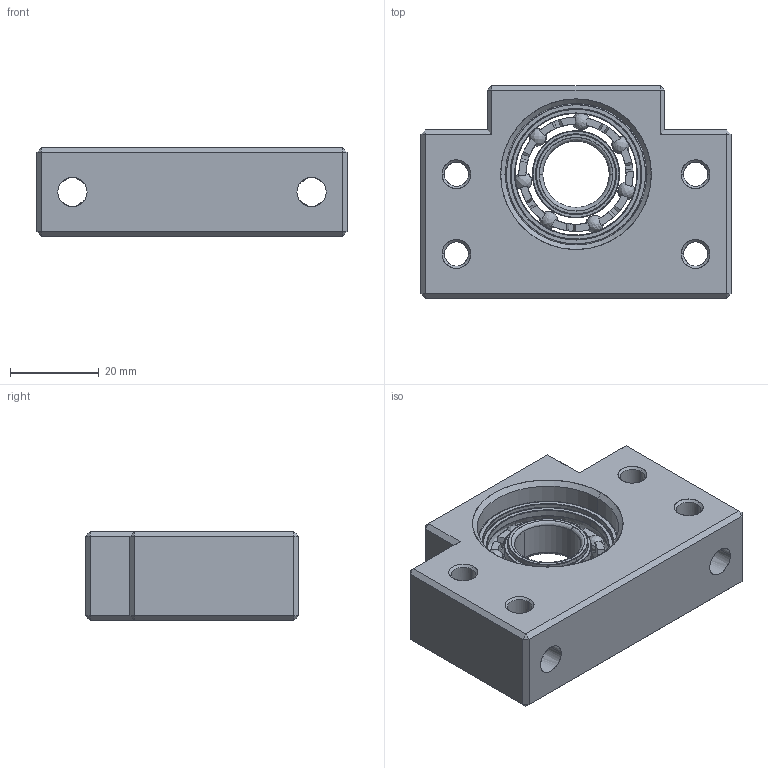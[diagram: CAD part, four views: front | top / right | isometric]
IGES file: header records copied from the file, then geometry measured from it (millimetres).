
Start section: SolidWorks IGES file using analytic representation for surfaces
Global section: file name: Z:\Accessories\_GC_!!!\SYK\Support unit\BF\BF15.IGS; native system: SolidWorks 2015; preprocessor: SolidWorks 2015; author: User; date: 170504.151415; units: millimetre
Bounding box: 70 x 48 x 20 mm (x, y, z)
Surface area: 17514.2 mm2 (no closed solid volume)
Topology: 0 solids, 0 shells, 261 faces, 3743 edges, 3711 vertices
Faces by surface type: bspline 164, revolution 97
